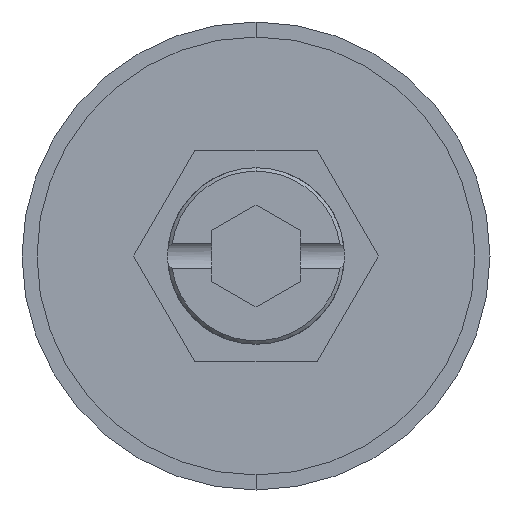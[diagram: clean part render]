
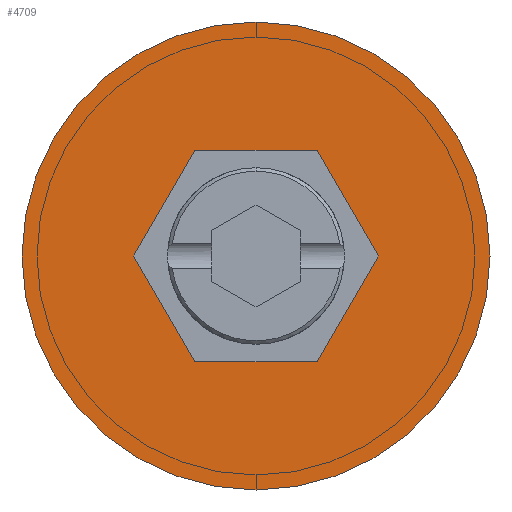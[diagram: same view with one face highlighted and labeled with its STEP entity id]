
A CAD part, front view. The second image highlights one B-rep face of the part: STEP entity #4709.
In plain terms, the highlighted planar face has unit normal (0, -1, 0).
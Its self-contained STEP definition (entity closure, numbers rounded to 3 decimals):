
#17 = AXIS2_PLACEMENT_3D ( 'NONE', #2819, #2798, #2611 ) ;
#85 = VERTEX_POINT ( 'NONE', #3246 ) ;
#106 = CARTESIAN_POINT ( 'NONE',  ( -3.464, 0., -6. ) ) ;
#142 = CARTESIAN_POINT ( 'NONE',  ( 3.464, 0., -6. ) ) ;
#266 = DIRECTION ( 'NONE',  ( -0.5, 0., -0.866 ) ) ;
#401 = EDGE_CURVE ( 'NONE', #4255, #85, #2391, .T. ) ;
#436 = CARTESIAN_POINT ( 'NONE',  ( 0., 0., 0. ) ) ;
#446 = CARTESIAN_POINT ( 'NONE',  ( 0., 0., 0. ) ) ;
#449 = DIRECTION ( 'NONE',  ( 1., 0., 0. ) ) ;
#493 = CARTESIAN_POINT ( 'NONE',  ( 3.464, 0., 6. ) ) ;
#573 = EDGE_LOOP ( 'NONE', ( #1652, #3250, #705, #3362, #4440, #2640 ) ) ;
#682 = VERTEX_POINT ( 'NONE', #4020 ) ;
#705 = ORIENTED_EDGE ( 'NONE', *, *, #2134, .F. ) ;
#810 = DIRECTION ( 'NONE',  ( 0., 0., -1. ) ) ;
#867 = VECTOR ( 'NONE', #4218, 1000. ) ;
#1065 = VERTEX_POINT ( 'NONE', #3089 ) ;
#1082 = VERTEX_POINT ( 'NONE', #1938 ) ;
#1093 = LINE ( 'NONE', #106, #1530 ) ;
#1198 = CARTESIAN_POINT ( 'NONE',  ( 6.928, 0., 0. ) ) ;
#1363 = AXIS2_PLACEMENT_3D ( 'NONE', #436, #1891, #4429 ) ;
#1430 = ORIENTED_EDGE ( 'NONE', *, *, #3077, .T. ) ;
#1486 = DIRECTION ( 'NONE',  ( 0.5, 0., 0.866 ) ) ;
#1530 = VECTOR ( 'NONE', #449, 1000. ) ;
#1551 = CIRCLE ( 'NONE', #3356, 13.25 ) ;
#1594 = VECTOR ( 'NONE', #266, 1000. ) ;
#1652 = ORIENTED_EDGE ( 'NONE', *, *, #4489, .F. ) ;
#1679 = CARTESIAN_POINT ( 'NONE',  ( 6.928, 0., 0. ) ) ;
#1693 = LINE ( 'NONE', #4382, #2681 ) ;
#1780 = VECTOR ( 'NONE', #1486, 1000. ) ;
#1891 = DIRECTION ( 'NONE',  ( 0., -1., 0. ) ) ;
#1938 = CARTESIAN_POINT ( 'NONE',  ( 3.464, 0., 6. ) ) ;
#2028 = EDGE_CURVE ( 'NONE', #4196, #1082, #3028, .T. ) ;
#2134 = EDGE_CURVE ( 'NONE', #3931, #682, #2808, .T. ) ;
#2262 = LINE ( 'NONE', #493, #4075 ) ;
#2391 = CIRCLE ( 'NONE', #17, 13.25 ) ;
#2443 = FACE_OUTER_BOUND ( 'NONE', #2980, .T. ) ;
#2611 = DIRECTION ( 'NONE',  ( 0., 0., -1. ) ) ;
#2640 = ORIENTED_EDGE ( 'NONE', *, *, #2931, .F. ) ;
#2681 = VECTOR ( 'NONE', #3306, 1000. ) ;
#2695 = CARTESIAN_POINT ( 'NONE',  ( 0., 0., 13.25 ) ) ;
#2798 = DIRECTION ( 'NONE',  ( 0., -1., 0. ) ) ;
#2808 = LINE ( 'NONE', #4607, #1594 ) ;
#2819 = CARTESIAN_POINT ( 'NONE',  ( 0., 0., 0. ) ) ;
#2931 = EDGE_CURVE ( 'NONE', #4037, #4196, #4558, .T. ) ;
#2980 = EDGE_LOOP ( 'NONE', ( #1430, #3139 ) ) ;
#2981 = DIRECTION ( 'NONE',  ( 0., -1., 0. ) ) ;
#3028 = LINE ( 'NONE', #1679, #867 ) ;
#3033 = DIRECTION ( 'NONE',  ( -1., 0., 0. ) ) ;
#3077 = EDGE_CURVE ( 'NONE', #85, #4255, #1551, .T. ) ;
#3089 = CARTESIAN_POINT ( 'NONE',  ( -3.464, 0., -6. ) ) ;
#3139 = ORIENTED_EDGE ( 'NONE', *, *, #401, .T. ) ;
#3246 = CARTESIAN_POINT ( 'NONE',  ( 0., 0., -13.25 ) ) ;
#3250 = ORIENTED_EDGE ( 'NONE', *, *, #4657, .F. ) ;
#3306 = DIRECTION ( 'NONE',  ( 0.5, 0., -0.866 ) ) ;
#3339 = PLANE ( 'NONE',  #1363 ) ;
#3356 = AXIS2_PLACEMENT_3D ( 'NONE', #446, #2981, #810 ) ;
#3362 = ORIENTED_EDGE ( 'NONE', *, *, #4556, .F. ) ;
#3629 = FACE_BOUND ( 'NONE', #573, .T. ) ;
#3931 = VERTEX_POINT ( 'NONE', #4430 ) ;
#3996 = CARTESIAN_POINT ( 'NONE',  ( 3.464, 0., -6. ) ) ;
#4020 = CARTESIAN_POINT ( 'NONE',  ( -6.928, 0., 0. ) ) ;
#4037 = VERTEX_POINT ( 'NONE', #142 ) ;
#4075 = VECTOR ( 'NONE', #3033, 1000. ) ;
#4196 = VERTEX_POINT ( 'NONE', #1198 ) ;
#4218 = DIRECTION ( 'NONE',  ( -0.5, 0., 0.866 ) ) ;
#4255 = VERTEX_POINT ( 'NONE', #2695 ) ;
#4382 = CARTESIAN_POINT ( 'NONE',  ( -6.928, 0., 0. ) ) ;
#4429 = DIRECTION ( 'NONE',  ( 0., 0., -1. ) ) ;
#4430 = CARTESIAN_POINT ( 'NONE',  ( -3.464, 0., 6. ) ) ;
#4440 = ORIENTED_EDGE ( 'NONE', *, *, #2028, .F. ) ;
#4489 = EDGE_CURVE ( 'NONE', #1065, #4037, #1093, .T. ) ;
#4556 = EDGE_CURVE ( 'NONE', #1082, #3931, #2262, .T. ) ;
#4558 = LINE ( 'NONE', #3996, #1780 ) ;
#4607 = CARTESIAN_POINT ( 'NONE',  ( -3.464, 0., 6. ) ) ;
#4657 = EDGE_CURVE ( 'NONE', #682, #1065, #1693, .T. ) ;
#4709 = ADVANCED_FACE ( 'NONE', ( #3629, #2443 ), #3339, .T. ) ;
